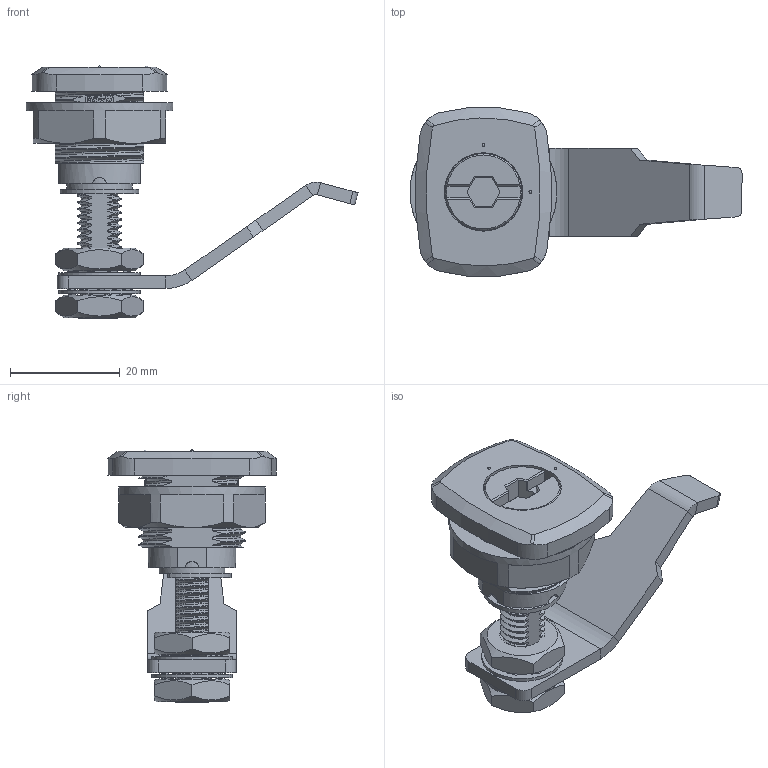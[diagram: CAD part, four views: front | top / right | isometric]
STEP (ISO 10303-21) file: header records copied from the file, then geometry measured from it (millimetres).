
FILE_DESCRIPTION (( 'STEP AP203' ), '1' );
FILE_NAME ('A-406-1 矩型小圓鎖.stp', '2022-05-02T23:46:22', ( '' ), ( '' ), 'SwSTEP 2.0', 'SolidWorks 2020', '' );
FILE_SCHEMA (( 'CONFIG_CONTROL_DESIGN' ));
Products named in the file (1): A-406-1 矩型小圓鎖
Bounding box: 60.54 x 30.77 x 46 mm (x, y, z)
Volume: 12100.2 mm3; surface area: 10739.3 mm2
Topology: 7 solids, 7 shells, 834 faces, 2532 edges, 1655 vertices
Faces by surface type: plane 350, bspline 275, cylinder 193, cone 14, sphere 2
Full cylindrical faces by diameter (mm): 3 x1, 8 x1, 8.3 x1, 8.4 x1, 10.8 x2, 12 x1, 14 x1, 14.3 x1, 14.8 x2, 26.8 x1
Entity records: 129140 total; most frequent: CARTESIAN_POINT 109751, ORIENTED_EDGE 4992, DIRECTION 2794, EDGE_CURVE 2496, VERTEX_POINT 1640, VECTOR 1096, LINE 1096, EDGE_LOOP 890
